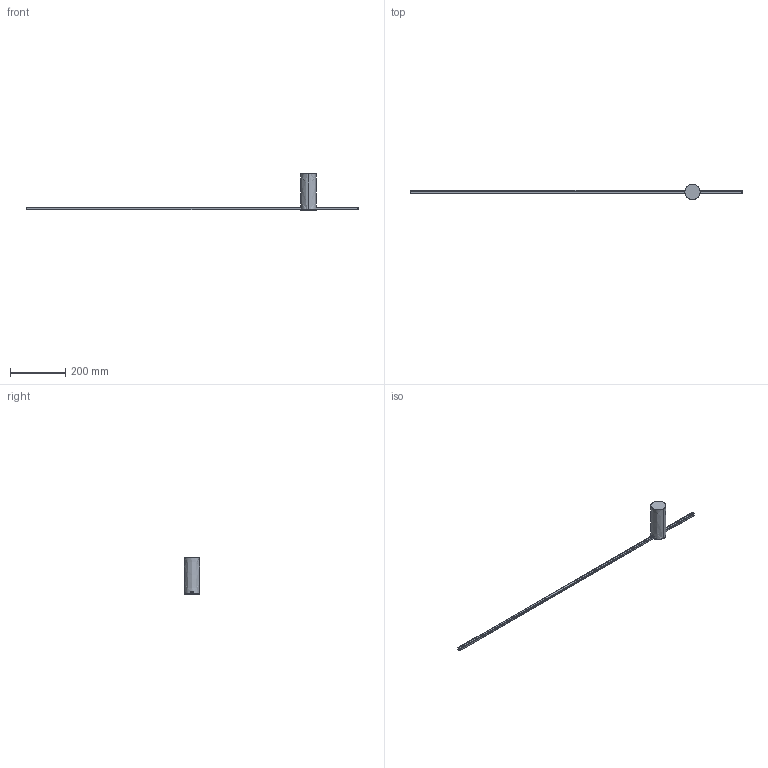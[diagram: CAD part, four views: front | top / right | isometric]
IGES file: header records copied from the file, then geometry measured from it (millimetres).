
Start section: SolidWorks IGES file using analytic representation for surfaces
Global section: file name: C:\Users\anna.bielnik\Desktop\SABER-LED-L-10314\SABER-LED-L-10314 ZLOZENIE tymczasowe.IGS; native system: SolidWorks 2023; preprocessor: SolidWorks 2023; author: anna.bielnik; date: 230614.104605; units: millimetre
Bounding box: 1204 x 55 x 132 mm (x, y, z)
Surface area: 128135.2 mm2 (no closed solid volume)
Topology: 0 solids, 0 shells, 76 faces, 612 edges, 612 vertices
Faces by surface type: bspline 72, revolution 4
